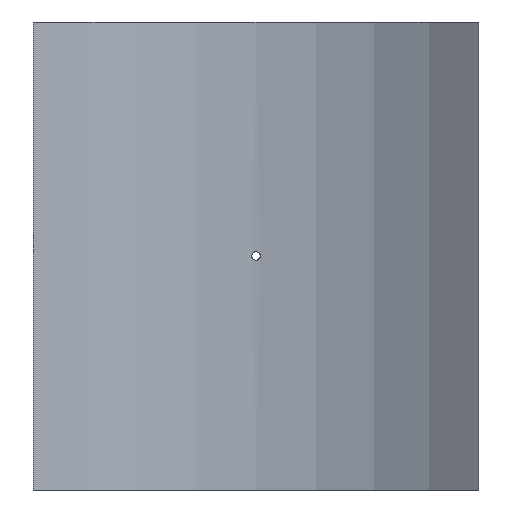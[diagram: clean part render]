
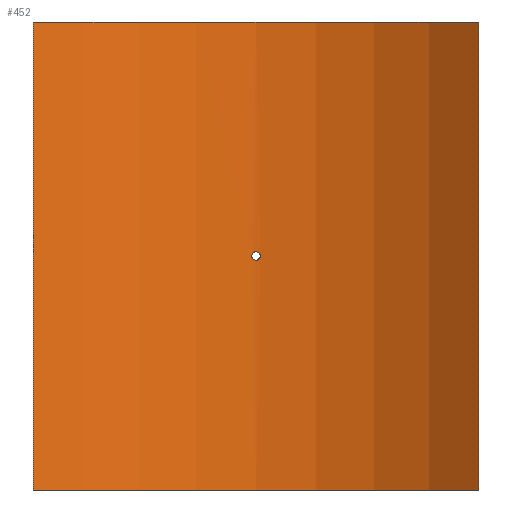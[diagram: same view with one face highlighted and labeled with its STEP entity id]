
A CAD part, front view. The second image highlights one B-rep face of the part: STEP entity #452.
In plain terms, the highlighted cylindrical face has radius 400 mm (diameter 800 mm), a partial arc.
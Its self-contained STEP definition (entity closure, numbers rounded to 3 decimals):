
#19=B_SPLINE_CURVE_WITH_KNOTS('',3,(#788,#789,#790,#791,#792,#793,#794,
#795,#796,#797,#798,#799,#800,#801,#802,#803,#804,#805,#806,#807,#808,#809,
#810,#811,#812,#813,#814,#815,#816,#817,#818,#819,#820,#821),
 .UNSPECIFIED.,.T.,.F.,(4,2,2,2,2,2,2,2,2,2,2,2,2,2,2,2,4),(0.,0.181,
0.362,0.542,0.723,0.904,1.085,
1.266,1.446,1.627,1.808,1.989,
2.17,2.351,2.531,2.712,2.893),
 .UNSPECIFIED.);
#43=LINE('',#1065,#62);
#44=LINE('',#1068,#63);
#62=VECTOR('',#661,10.);
#63=VECTOR('',#664,10.);
#76=CYLINDRICAL_SURFACE('',#530,400.);
#88=FACE_BOUND('',#167,.T.);
#127=FACE_OUTER_BOUND('',#166,.T.);
#166=EDGE_LOOP('',(#405,#406,#407,#408));
#167=EDGE_LOOP('',(#409));
#201=CIRCLE('',#529,400.);
#202=CIRCLE('',#531,400.);
#219=VERTEX_POINT('',#786);
#242=VERTEX_POINT('',#1058);
#243=VERTEX_POINT('',#1060);
#244=VERTEX_POINT('',#1064);
#245=VERTEX_POINT('',#1066);
#267=EDGE_CURVE('',#219,#219,#19,.T.);
#299=EDGE_CURVE('',#242,#243,#201,.T.);
#301=EDGE_CURVE('',#244,#242,#43,.T.);
#302=EDGE_CURVE('',#245,#244,#202,.T.);
#303=EDGE_CURVE('',#245,#243,#44,.T.);
#405=ORIENTED_EDGE('',*,*,#301,.F.);
#406=ORIENTED_EDGE('',*,*,#302,.F.);
#407=ORIENTED_EDGE('',*,*,#303,.T.);
#408=ORIENTED_EDGE('',*,*,#299,.F.);
#409=ORIENTED_EDGE('',*,*,#267,.T.);
#452=ADVANCED_FACE('',(#127,#88),#76,.F.);
#529=AXIS2_PLACEMENT_3D('',#1061,#656,#657);
#530=AXIS2_PLACEMENT_3D('',#1063,#659,#660);
#531=AXIS2_PLACEMENT_3D('',#1067,#662,#663);
#656=DIRECTION('center_axis',(0.,0.,1.));
#657=DIRECTION('ref_axis',(0.631,0.776,0.));
#659=DIRECTION('center_axis',(0.,0.,1.));
#660=DIRECTION('ref_axis',(0.631,0.776,0.));
#661=DIRECTION('',(0.,0.,-1.));
#662=DIRECTION('center_axis',(0.,0.,-1.));
#663=DIRECTION('ref_axis',(0.631,0.776,0.));
#664=DIRECTION('',(0.,0.,-1.));
#786=CARTESIAN_POINT('',(4.8,399.971,0.));
#788=CARTESIAN_POINT('Ctrl Pts',(4.8,399.971,0.));
#789=CARTESIAN_POINT('Ctrl Pts',(4.8,399.971,-0.603));
#790=CARTESIAN_POINT('Ctrl Pts',(4.68,399.973,-1.246));
#791=CARTESIAN_POINT('Ctrl Pts',(4.19,399.978,-2.428));
#792=CARTESIAN_POINT('Ctrl Pts',(3.82,399.982,-2.968));
#793=CARTESIAN_POINT('Ctrl Pts',(2.968,399.989,-3.82));
#794=CARTESIAN_POINT('Ctrl Pts',(2.428,399.993,-4.19));
#795=CARTESIAN_POINT('Ctrl Pts',(1.246,399.998,-4.68));
#796=CARTESIAN_POINT('Ctrl Pts',(0.603,400.,-4.8));
#797=CARTESIAN_POINT('Ctrl Pts',(-0.603,400.,-4.8));
#798=CARTESIAN_POINT('Ctrl Pts',(-1.246,399.998,-4.68));
#799=CARTESIAN_POINT('Ctrl Pts',(-2.428,399.993,-4.19));
#800=CARTESIAN_POINT('Ctrl Pts',(-2.968,399.989,-3.82));
#801=CARTESIAN_POINT('Ctrl Pts',(-3.82,399.982,-2.968));
#802=CARTESIAN_POINT('Ctrl Pts',(-4.19,399.978,-2.428));
#803=CARTESIAN_POINT('Ctrl Pts',(-4.68,399.973,-1.246));
#804=CARTESIAN_POINT('Ctrl Pts',(-4.8,399.971,-0.603));
#805=CARTESIAN_POINT('Ctrl Pts',(-4.8,399.971,0.603));
#806=CARTESIAN_POINT('Ctrl Pts',(-4.68,399.973,1.246));
#807=CARTESIAN_POINT('Ctrl Pts',(-4.19,399.978,2.428));
#808=CARTESIAN_POINT('Ctrl Pts',(-3.82,399.982,2.968));
#809=CARTESIAN_POINT('Ctrl Pts',(-2.968,399.989,3.82));
#810=CARTESIAN_POINT('Ctrl Pts',(-2.428,399.993,4.19));
#811=CARTESIAN_POINT('Ctrl Pts',(-1.246,399.998,4.68));
#812=CARTESIAN_POINT('Ctrl Pts',(-0.603,400.,4.8));
#813=CARTESIAN_POINT('Ctrl Pts',(0.603,400.,4.8));
#814=CARTESIAN_POINT('Ctrl Pts',(1.246,399.998,4.68));
#815=CARTESIAN_POINT('Ctrl Pts',(2.428,399.993,4.19));
#816=CARTESIAN_POINT('Ctrl Pts',(2.968,399.989,3.82));
#817=CARTESIAN_POINT('Ctrl Pts',(3.82,399.982,2.968));
#818=CARTESIAN_POINT('Ctrl Pts',(4.19,399.978,2.428));
#819=CARTESIAN_POINT('Ctrl Pts',(4.68,399.973,1.246));
#820=CARTESIAN_POINT('Ctrl Pts',(4.8,399.971,0.603));
#821=CARTESIAN_POINT('Ctrl Pts',(4.8,399.971,0.));
#1058=CARTESIAN_POINT('',(252.5,310.232,-265.));
#1060=CARTESIAN_POINT('',(-252.5,310.232,-265.));
#1061=CARTESIAN_POINT('Origin',(0.,0.,
-265.));
#1063=CARTESIAN_POINT('Origin',(0.,0.,
0.));
#1064=CARTESIAN_POINT('',(252.5,310.232,265.));
#1065=CARTESIAN_POINT('',(252.5,310.232,0.));
#1066=CARTESIAN_POINT('',(-252.5,310.232,265.));
#1067=CARTESIAN_POINT('Origin',(0.,0.,
265.));
#1068=CARTESIAN_POINT('',(-252.5,310.232,0.));
